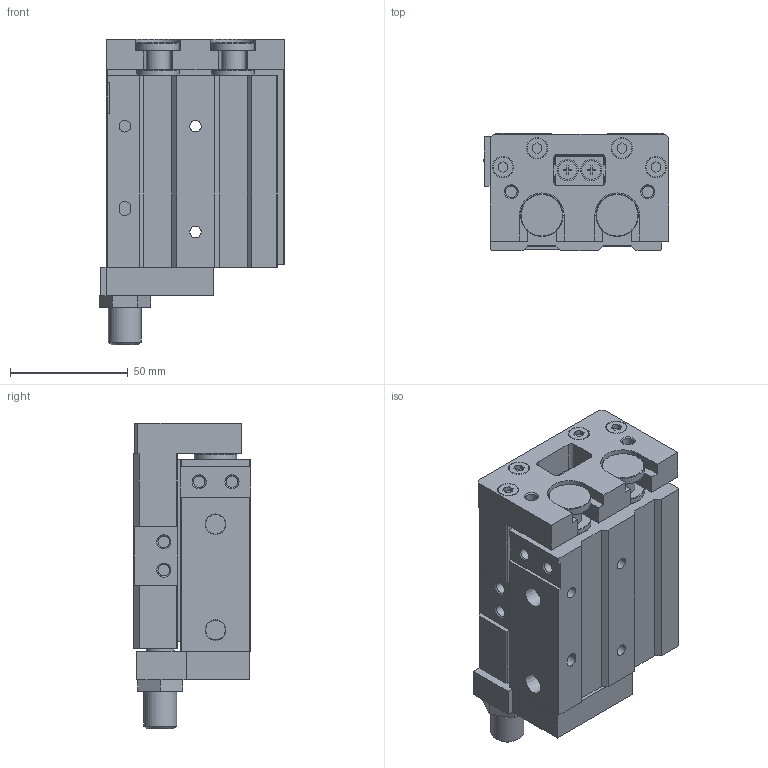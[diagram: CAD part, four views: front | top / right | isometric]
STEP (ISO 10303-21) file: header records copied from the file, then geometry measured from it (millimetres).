
FILE_DESCRIPTION( ( 'STEP AP214' ), '1' );
FILE_NAME( 'C:/Users/EMC02301/Desktop/ELS图纸/ELS20X10-S-AF.stp', '2026-08-05T06:14:42', ( 'License CC BY-ND 4.0' ), ( 'CADENAS' ), ' ', 'PARTsolutions', ' ' );
FILE_SCHEMA( ( 'AUTOMOTIVE_DESIGN { 1 0 10303 214 1 1 1 1 }' ) );
Length unit declared in the file: millimetre
Products named in the file (4): ELS20X10-S-AF(0)(); _ELS20X10-S-AF(HX-07)(HX-07-1)(0-body); _ELS20X10-S-AF(0-rod); _FJ-ELS20-(AF)
Assembly tree (3 placements, depth 2):
  ELS20X10-S-AF(0)()
    _ELS20X10-S-AF(HX-07)(HX-07-1)(0-body)
    _ELS20X10-S-AF(0-rod)
    _FJ-ELS20-(AF)
Bounding box: 78.97 x 50 x 130 mm (x, y, z)
Volume: 330408.1 mm3; surface area: 89619.6 mm2
Topology: 3 solids, 3 shells, 510 faces, 1251 edges, 820 vertices
Faces by surface type: plane 388, cylinder 95, cone 27
Full cylindrical faces by diameter (mm): 4.134 x10, 4.917 x8, 5 x2, 5.1 x2, 8 x8, 8.5 x4, 8.6 x4, 9 x16, 10 x6, 11 x4, 12 x1, 14 x1, 18 x6, 20 x4, 23 x2
Entity records: 18426 total; most frequent: CARTESIAN_POINT 2450, DIRECTION 2388, ORIENTED_EDGE 2262, EDGE_CURVE 1131, LINE 902, VECTOR 902, VERTEX_POINT 805, AXIS2_PLACEMENT_3D 743
